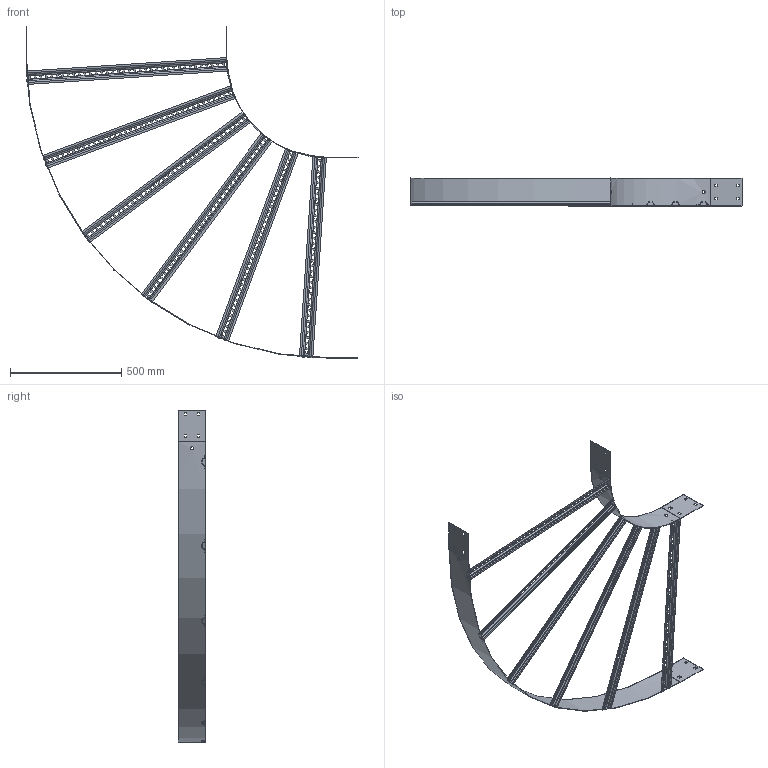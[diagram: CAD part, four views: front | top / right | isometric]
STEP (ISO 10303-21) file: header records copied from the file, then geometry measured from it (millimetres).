
FILE_DESCRIPTION (( 'STEP AP203' ), '1' );
FILE_NAME ('N3 B 9004.STEP', '2021-06-10T21:10:24', ( '' ), ( '' ), 'SwSTEP 2.0', 'SolidWorks 2020', '' );
FILE_SCHEMA (( 'CONFIG_CONTROL_DESIGN' ));
Length unit declared in the file: millimetre
Products named in the file (4): Ladder Rung_Ladder Rung -  900mm; N3 RADIUS PLATE_N1-450 IR; N3 RADIUS PLATE_N1-1350; N3 B 9004
Assembly tree (8 placements, depth 2):
  N3 B 9004
    N3 RADIUS PLATE_N1-450 IR
    N3 RADIUS PLATE_N1-1350
    Ladder Rung_Ladder Rung -  900mm  x6
Bounding box: 1494.5 x 124 x 1494.5 mm (x, y, z)
Volume: 1412870.3 mm3; surface area: 1611885.1 mm2
Topology: 8 solids, 8 shells, 1216 faces, 3392 edges, 2192 vertices
Faces by surface type: plane 1156, cylinder 60
Entity records: 10342 total; most frequent: CARTESIAN_POINT 2285, ORIENTED_EDGE 1584, DIRECTION 1394, EDGE_CURVE 792, VECTOR 752, LINE 752, VERTEX_POINT 512, EDGE_LOOP 396
